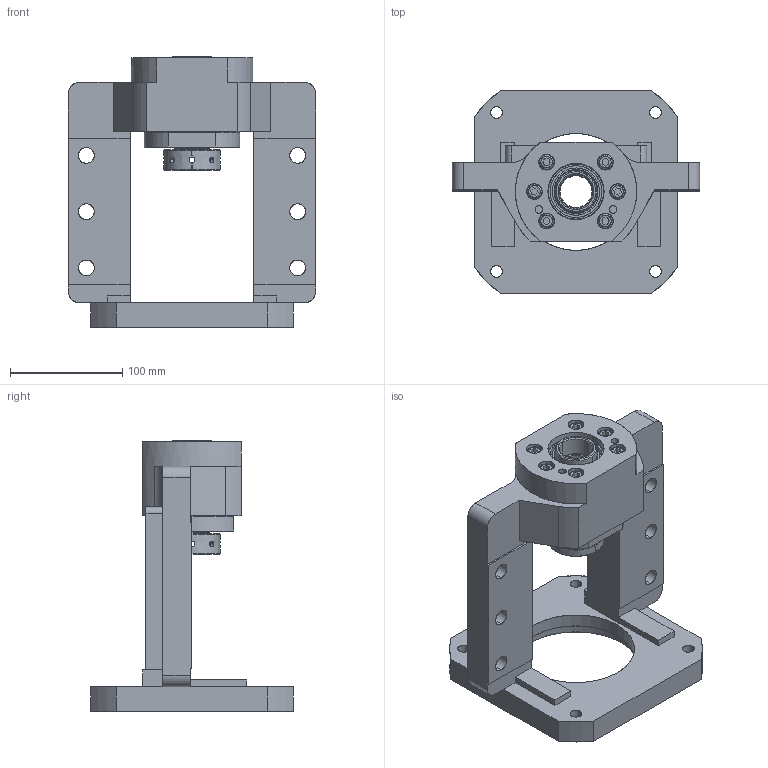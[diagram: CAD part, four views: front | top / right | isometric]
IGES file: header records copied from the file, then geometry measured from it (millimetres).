
Start section: SolidWorks IGES file using analytic representation for surfaces
Bounding box: 220 x 180 x 241 mm (x, y, z)
Surface area: 228269.4 mm2 (no closed solid volume)
Topology: 0 solids, 0 shells, 345 faces, 6842 edges, 6834 vertices
Faces by surface type: revolution 186, bspline 159
